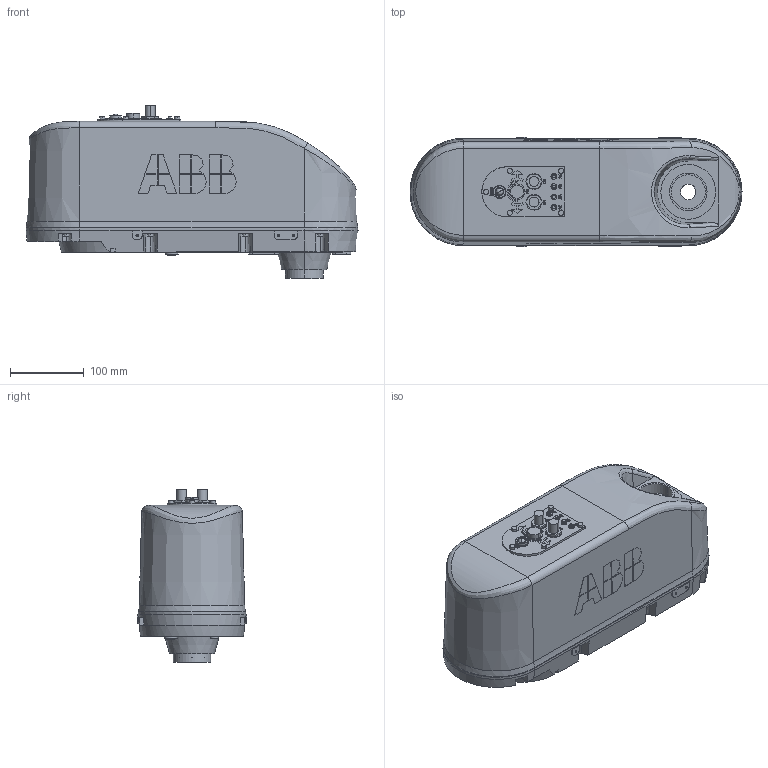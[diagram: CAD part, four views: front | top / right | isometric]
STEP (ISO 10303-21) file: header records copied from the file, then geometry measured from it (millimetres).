
FILE_DESCRIPTION (( 'STEP AP214' ), '1' );
FILE_NAME ('IRB920T_6kg-650-180-STD_OmniCore_rev00_LINK2_CAD.step', '2021-08-23T03:29:08', ( '' ), ( '' ), 'SwSTEP 2.0', 'SolidWorks 2018', '' );
FILE_SCHEMA (( 'AUTOMOTIVE_DESIGN' ));
Length unit declared in the file: millimetre
Products named in the file (1): IRB920T_6kg-650-180-STD_OmniCore_rev00_LINK2_CAD
Bounding box: 451 x 149 x 235.7 mm (x, y, z)
Volume: 9642564 mm3; surface area: 320547.9 mm2
Topology: 1 solids, 1 shells, 892 faces, 2274 edges, 1458 vertices
Faces by surface type: plane 512, bspline 156, cylinder 123, cone 93, torus 6, sphere 2
Entity records: 37911 total; most frequent: CARTESIAN_POINT 15489, ORIENTED_EDGE 4458, DIRECTION 3660, EDGE_CURVE 2229, VECTOR 1462, LINE 1462, VERTEX_POINT 1458, AXIS2_PLACEMENT_3D 1099
